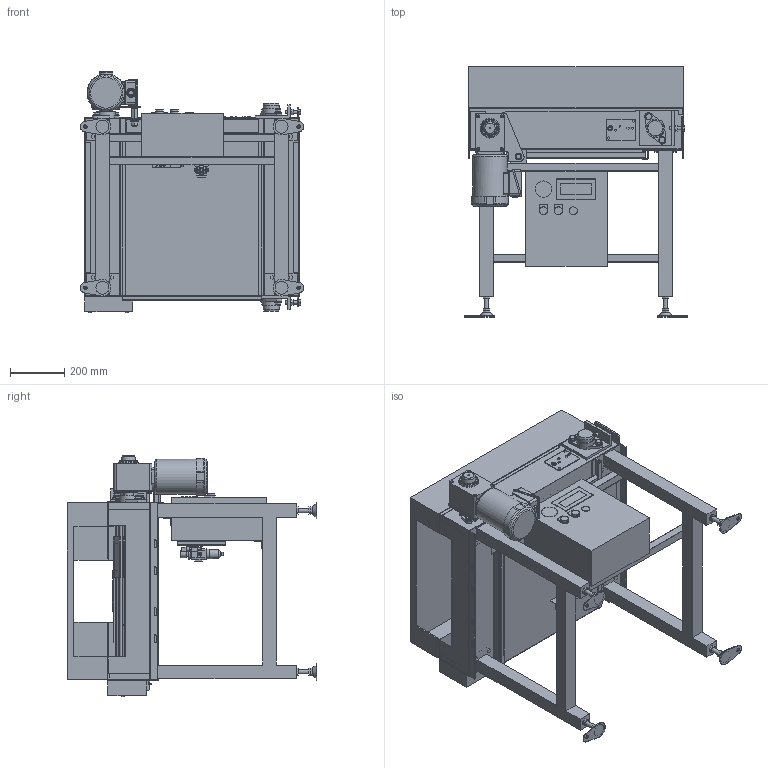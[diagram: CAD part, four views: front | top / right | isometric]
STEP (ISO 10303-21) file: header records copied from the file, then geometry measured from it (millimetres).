
FILE_DESCRIPTION( (''), '2;1');
FILE_NAME ('WEB-SLS-H-340-2-150-250-L-IVH-7.5.stp','2025-11-20T12:16:46',(''),(''),'spGate 20.6.2 (****-****-****-****)','','');
FILE_SCHEMA (('AUTOMOTIVE_DESIGN'));
Length unit declared in the file: millimetre
Products named in the file (87): WEB-SLS-H-340-2-150-250-L-IVH-7.5; SLS-H-2-150-250-L; TEMP_X_T-prt84; TEMP_X_T-prt0; TEMP_X_T-prt1; TEMP_X_T-prt2; TEMP_X_T-prt3; TEMP_X_T-prt4; TEMP_X_T-prt5; TEMP_X_T-prt6; TEMP_X_T-prt7; TEMP_X_T-prt8; TEMP_X_T-prt9; TEMP_X_T-prt10; TEMP_X_T-prt11; TEMP_X_T-prt12; TEMP_X_T-prt13; TEMP_X_T-prt14; TEMP_X_T-prt15; TEMP_X_T-prt16; TEMP_X_T-prt17; TEMP_X_T-prt18; TEMP_X_T-prt19; TEMP_X_T-prt20; TEMP_X_T-prt21; TEMP_X_T-prt22; TEMP_X_T-prt23; TEMP_X_T-prt24; TEMP_X_T-prt25; TEMP_X_T-prt26; TEMP_X_T-prt27; TEMP_X_T-prt28; TEMP_X_T-prt29; TEMP_X_T-prt30; TEMP_X_T-prt31; TEMP_X_T-prt32; TEMP_X_T-prt33; TEMP_X_T-prt34; TEMP_X_T-prt35; TEMP_X_T-prt36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
Assembly tree (86 placements, depth 3):
  WEB-SLS-H-340-2-150-250-L-IVH-7.5
    SLS-H-2-150-250-L
      TEMP_X_T-prt0
      TEMP_X_T-prt1
      TEMP_X_T-prt2
      TEMP_X_T-prt3
      TEMP_X_T-prt4
      TEMP_X_T-prt5
      TEMP_X_T-prt6
      TEMP_X_T-prt7
      TEMP_X_T-prt8
      TEMP_X_T-prt9
      TEMP_X_T-prt10
      TEMP_X_T-prt11
      TEMP_X_T-prt12
      TEMP_X_T-prt13
      TEMP_X_T-prt14
      TEMP_X_T-prt15
      TEMP_X_T-prt16
      TEMP_X_T-prt17
      TEMP_X_T-prt18
      TEMP_X_T-prt19
      TEMP_X_T-prt20
      TEMP_X_T-prt21
      TEMP_X_T-prt22
      TEMP_X_T-prt23
      TEMP_X_T-prt24
      TEMP_X_T-prt25
      TEMP_X_T-prt26
      TEMP_X_T-prt27
      TEMP_X_T-prt28
      TEMP_X_T-prt29
      TEMP_X_T-prt30
      TEMP_X_T-prt31
      TEMP_X_T-prt32
      TEMP_X_T-prt33
      TEMP_X_T-prt34
      TEMP_X_T-prt35
      TEMP_X_T-prt36
      TEMP_X_T-prt37
      TEMP_X_T-prt38
      TEMP_X_T-prt39
      TEMP_X_T-prt40
      TEMP_X_T-prt41
      TEMP_X_T-prt42
      TEMP_X_T-prt43
      TEMP_X_T-prt44
      TEMP_X_T-prt45
      TEMP_X_T-prt46
      TEMP_X_T-prt47
      TEMP_X_T-prt48
      TEMP_X_T-prt49
      TEMP_X_T-prt50
      TEMP_X_T-prt51
      TEMP_X_T-prt52
      TEMP_X_T-prt53
      TEMP_X_T-prt54
      TEMP_X_T-prt55
      TEMP_X_T-prt56
      TEMP_X_T-prt57
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Bounding box: 824 x 920.6 x 889.5 mm (x, y, z)
Volume: 56647386.8 mm3; surface area: 8557505 mm2
Topology: 85 solids, 85 shells, 2334 faces, 6045 edges, 3970 vertices
Faces by surface type: plane 1676, cylinder 486, bspline 168, sphere 4
Full cylindrical faces by diameter (mm): 2.459 x2, 3.2 x4, 4.386 x2, 6 x3, 6.5 x2, 6.8 x3, 7 x4, 7.9 x4, 8 x6, 8.376 x4, 8.5 x6, 9 x1, 9.7 x3, 9.9 x1, 10 x1, 10.5 x4, 11 x5, 11.8 x4, 12 x2, 12.3 x1, 13 x8, 13.8 x1, 14 x10, 15 x1, 15.4 x1, 16 x16, 18 x1, 19 x1, 20 x1, 21 x6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
Entity records: 124829 total; most frequent: CARTESIAN_POINT 16780, ORIENTED_EDGE 12078, DIRECTION 11669, COLOUR_RGB 8458, PRESENTATION_STYLE_ASSIGNMENT 8458, STYLED_ITEM 8458, EDGE_CURVE 6039, DRAUGHTING_PRE_DEFINED_CURVE_FONT 6039
